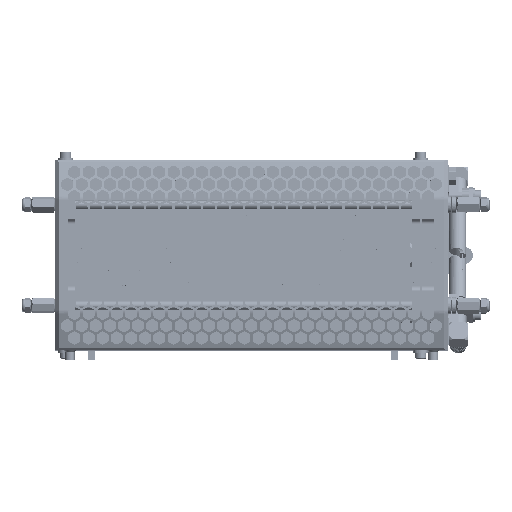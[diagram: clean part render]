
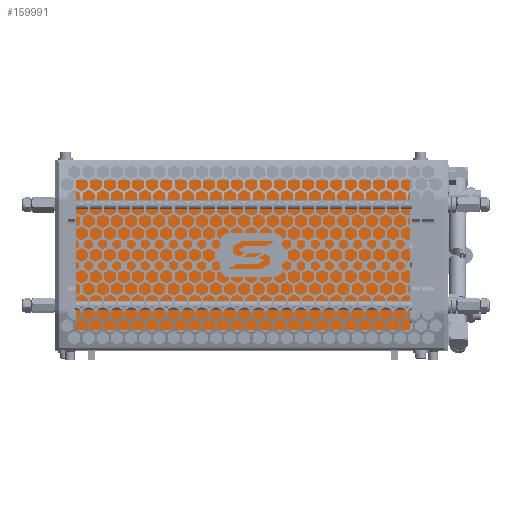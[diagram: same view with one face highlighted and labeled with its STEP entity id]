
A CAD part, top view. The second image highlights one B-rep face of the part: STEP entity #159991.
In plain terms, the highlighted planar face has unit normal (0, 0, 1) as drawn and (-1, 0, 0) by its records, which use the part's own axes.
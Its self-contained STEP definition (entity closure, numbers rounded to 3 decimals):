
#13964 = CARTESIAN_POINT ( 'NONE',  ( -17., 37.5, 139. ) ) ;
#17476 = VERTEX_POINT ( 'NONE', #158757 ) ;
#19772 = VECTOR ( 'NONE', #436051, 1000. ) ;
#20693 = DIRECTION ( 'NONE',  ( 0., 0., -1. ) ) ;
#46132 = CARTESIAN_POINT ( 'NONE',  ( -17., 37.5, 139. ) ) ;
#46872 = CARTESIAN_POINT ( 'NONE',  ( -17., 37.5, 139. ) ) ;
#75492 = DIRECTION ( 'NONE',  ( 0., 0., -1. ) ) ;
#82186 = DIRECTION ( 'NONE',  ( 1., 0., 0. ) ) ;
#102861 = CARTESIAN_POINT ( 'NONE',  ( -17., -37.5, 139. ) ) ;
#111297 = ORIENTED_EDGE ( 'NONE', *, *, #166875, .T. ) ;
#117271 = LINE ( 'NONE', #46872, #292523 ) ;
#125733 = EDGE_CURVE ( 'NONE', #431454, #414778, #163335, .T. ) ;
#137080 = VECTOR ( 'NONE', #75492, 1000. ) ;
#150409 = EDGE_LOOP ( 'NONE', ( #320712, #196280, #307450, #111297 ) ) ;
#158757 = CARTESIAN_POINT ( 'NONE',  ( -17., 37.5, 0. ) ) ;
#159991 = ADVANCED_FACE ( 'NONE', ( #365968 ), #359256, .F. ) ;
#163335 = LINE ( 'NONE', #297473, #19772 ) ;
#166875 = EDGE_CURVE ( 'NONE', #431454, #17476, #117271, .T. ) ;
#175978 = CARTESIAN_POINT ( 'NONE',  ( -17., -37.5, 0. ) ) ;
#181242 = VERTEX_POINT ( 'NONE', #175978 ) ;
#196280 = ORIENTED_EDGE ( 'NONE', *, *, #322112, .F. ) ;
#201935 = LINE ( 'NONE', #279091, #311218 ) ;
#222088 = CARTESIAN_POINT ( 'NONE',  ( -17., -37.5, 139. ) ) ;
#226228 = DIRECTION ( 'NONE',  ( 0., 0., -1. ) ) ;
#235071 = EDGE_CURVE ( 'NONE', #17476, #181242, #201935, .T. ) ;
#279091 = CARTESIAN_POINT ( 'NONE',  ( -17., 37.5, 0. ) ) ;
#292523 = VECTOR ( 'NONE', #226228, 1000. ) ;
#297473 = CARTESIAN_POINT ( 'NONE',  ( -17., 37.5, 139. ) ) ;
#307450 = ORIENTED_EDGE ( 'NONE', *, *, #125733, .F. ) ;
#311218 = VECTOR ( 'NONE', #417616, 1000. ) ;
#320712 = ORIENTED_EDGE ( 'NONE', *, *, #235071, .T. ) ;
#322112 = EDGE_CURVE ( 'NONE', #414778, #181242, #414030, .T. ) ;
#359256 = PLANE ( 'NONE',  #434274 ) ;
#365968 = FACE_OUTER_BOUND ( 'NONE', #150409, .T. ) ;
#414030 = LINE ( 'NONE', #102861, #137080 ) ;
#414778 = VERTEX_POINT ( 'NONE', #222088 ) ;
#417616 = DIRECTION ( 'NONE',  ( 0., -1., 0. ) ) ;
#431454 = VERTEX_POINT ( 'NONE', #46132 ) ;
#434274 = AXIS2_PLACEMENT_3D ( 'NONE', #13964, #82186, #20693 ) ;
#436051 = DIRECTION ( 'NONE',  ( 0., -1., 0. ) ) ;
